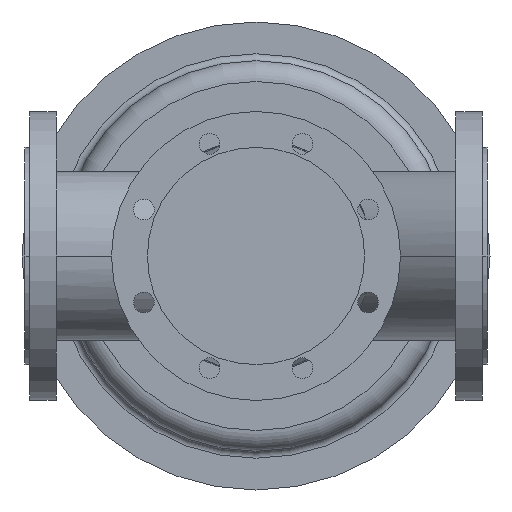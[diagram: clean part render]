
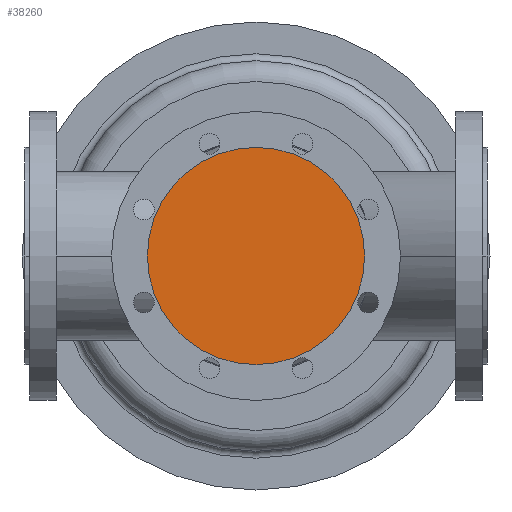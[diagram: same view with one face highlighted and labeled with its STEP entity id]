
A CAD part, front view. The second image highlights one B-rep face of the part: STEP entity #38260.
In plain terms, the highlighted planar face has unit normal (0, -1, 0).
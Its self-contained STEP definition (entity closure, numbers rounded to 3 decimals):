
#5340=CARTESIAN_POINT('',(106.,-200.,0.));
#5350=VERTEX_POINT('',#5340);
#5510=CARTESIAN_POINT('',(294.,-200.,0.));
#5520=VERTEX_POINT('',#5510);
#5550=CARTESIAN_POINT('',(200.,-200.,0.));
#5560=DIRECTION('',(0.,1.,0.));
#5570=DIRECTION('',(1.,0.,0.));
#5580=AXIS2_PLACEMENT_3D('',#5550,#5560,#5570);
#5590=CIRCLE('',#5580,94.);
#5600=EDGE_CURVE('',#5350,#5520,#5590,.T.);
#38160=CARTESIAN_POINT('',(247.,-200.,0.));
#38170=DIRECTION('',(0.,-1.,0.));
#38180=DIRECTION('',(-1.,0.,0.));
#38190=AXIS2_PLACEMENT_3D('',#38160,#38170,#38180);
#38200=PLANE('',#38190);
#38210=EDGE_CURVE('',#5520,#5350,#5590,.T.);
#38220=ORIENTED_EDGE('',*,*,#38210,.F.);
#38230=ORIENTED_EDGE('',*,*,#5600,.F.);
#38240=EDGE_LOOP('',(#38230,#38220));
#38250=FACE_OUTER_BOUND('',#38240,.T.);
#38260=ADVANCED_FACE('',(#38250),#38200,.T.);
